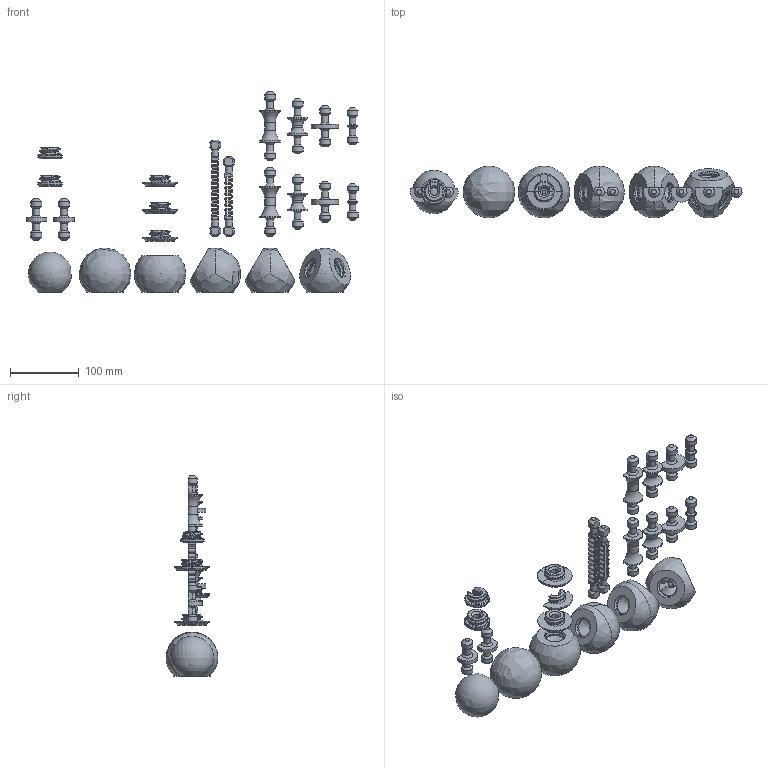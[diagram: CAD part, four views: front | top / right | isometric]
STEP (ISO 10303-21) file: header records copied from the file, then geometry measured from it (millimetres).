
FILE_DESCRIPTION(/* description */ (''),/* implementation_level */ '2;1');
FILE_NAME(/* name */ '',/* time_stamp */ '',/* author */ (''),/* organization */ (''),/* preprocessor_version */ 'ST-DEVELOPER v20.1',/* originating_system */ 'Autodesk Translation Framework v14.4.0.0',/* authorisation */ '');
FILE_SCHEMA (('AUTOMOTIVE_DESIGN { 1 0 10303 214 3 1 1 }'));
Products named in the file (1): Molecules2
Bounding box: 482.97 x 75 x 291 mm (x, y, z)
Volume: 1152501.6 mm3; surface area: 201260.7 mm2
Topology: 25 solids, 25 shells, 778 faces, 2069 edges, 1348 vertices
Faces by surface type: cylinder 282, plane 242, cone 143, bspline 88, torus 17, sphere 6
Full cylindrical faces by diameter (mm): 5 x1, 10 x14, 10.4 x1, 29.334 x1, 30.392 x13, 31 x13, 50 x1
Entity records: 40367 total; most frequent: CARTESIAN_POINT 22098, ORIENTED_EDGE 4100, DIRECTION 3458, EDGE_CURVE 2050, VERTEX_POINT 1348, AXIS2_PLACEMENT_3D 1345, EDGE_LOOP 806, FACE_OUTER_BOUND 778
